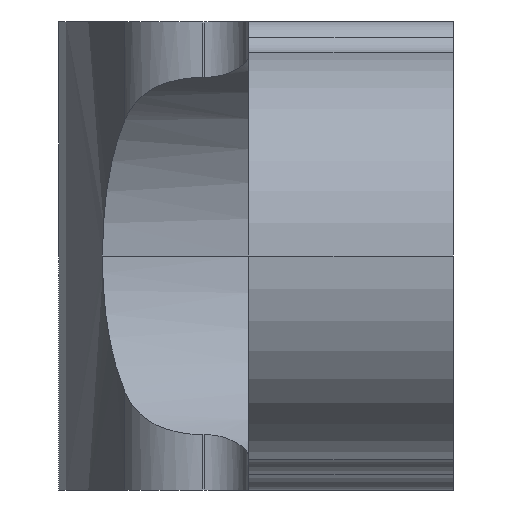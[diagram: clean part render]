
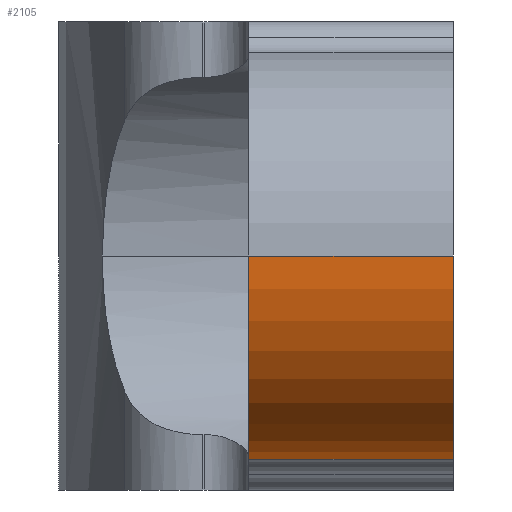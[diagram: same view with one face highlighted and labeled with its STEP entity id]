
A CAD part, left-side view. The second image highlights one B-rep face of the part: STEP entity #2105.
In plain terms, the highlighted cylindrical face has radius 1.778 mm (diameter 3.556 mm), a partial arc.
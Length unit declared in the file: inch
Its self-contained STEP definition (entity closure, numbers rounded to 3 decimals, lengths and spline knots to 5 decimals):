
#89 = FACE_OUTER_BOUND ( 'NONE', #377, .T. ) ;
#189 = DIRECTION ( 'NONE',  ( 0., -1., 0. ) ) ;
#292 = CIRCLE ( 'NONE', #2046, 0.07 ) ;
#357 = CARTESIAN_POINT ( 'NONE',  ( -0.37, -0.07, -0.08 ) ) ;
#377 = EDGE_LOOP ( 'NONE', ( #1481, #2301, #2750, #2599 ) ) ;
#393 = CARTESIAN_POINT ( 'NONE',  ( -0.30875, -0.07, -0.14945 ) ) ;
#855 = LINE ( 'NONE', #357, #2587 ) ;
#1011 = DIRECTION ( 'NONE',  ( 0., 1., 0. ) ) ;
#1049 = CARTESIAN_POINT ( 'NONE',  ( -0.3, 0., -0.08 ) ) ;
#1265 = CARTESIAN_POINT ( 'NONE',  ( -0.37, 0., -0.08 ) ) ;
#1320 = VERTEX_POINT ( 'NONE', #2596 ) ;
#1357 = CARTESIAN_POINT ( 'NONE',  ( -0.3, -0.07, -0.08 ) ) ;
#1359 = AXIS2_PLACEMENT_3D ( 'NONE', #1049, #2191, #2414 ) ;
#1399 = VERTEX_POINT ( 'NONE', #2672 ) ;
#1481 = ORIENTED_EDGE ( 'NONE', *, *, #1657, .T. ) ;
#1508 = CYLINDRICAL_SURFACE ( 'NONE', #1856, 0.07 ) ;
#1571 = EDGE_CURVE ( 'NONE', #2927, #2111, #855, .T. ) ;
#1604 = VECTOR ( 'NONE', #189, 39.37008 ) ;
#1657 = EDGE_CURVE ( 'NONE', #1399, #2927, #292, .T. ) ;
#1837 = DIRECTION ( 'NONE',  ( 0., 1., 0. ) ) ;
#1856 = AXIS2_PLACEMENT_3D ( 'NONE', #2157, #1011, #1955 ) ;
#1955 = DIRECTION ( 'NONE',  ( -1., 0., 0. ) ) ;
#2046 = AXIS2_PLACEMENT_3D ( 'NONE', #1357, #1837, #2822 ) ;
#2105 = ADVANCED_FACE ( 'NONE', ( #89 ), #1508, .T. ) ;
#2111 = VERTEX_POINT ( 'NONE', #1265 ) ;
#2157 = CARTESIAN_POINT ( 'NONE',  ( -0.3, -0.07, -0.08 ) ) ;
#2191 = DIRECTION ( 'NONE',  ( 0., 1., 0. ) ) ;
#2301 = ORIENTED_EDGE ( 'NONE', *, *, #1571, .T. ) ;
#2414 = DIRECTION ( 'NONE',  ( -1., 0., 0. ) ) ;
#2466 = EDGE_CURVE ( 'NONE', #1320, #2111, #2692, .T. ) ;
#2487 = LINE ( 'NONE', #393, #1604 ) ;
#2587 = VECTOR ( 'NONE', #2723, 39.37008 ) ;
#2596 = CARTESIAN_POINT ( 'NONE',  ( -0.30875, 0., -0.14945 ) ) ;
#2599 = ORIENTED_EDGE ( 'NONE', *, *, #2622, .T. ) ;
#2622 = EDGE_CURVE ( 'NONE', #1320, #1399, #2487, .T. ) ;
#2672 = CARTESIAN_POINT ( 'NONE',  ( -0.30875, -0.07, -0.14945 ) ) ;
#2692 = CIRCLE ( 'NONE', #1359, 0.07 ) ;
#2723 = DIRECTION ( 'NONE',  ( 0., 1., 0. ) ) ;
#2744 = CARTESIAN_POINT ( 'NONE',  ( -0.37, -0.07, -0.08 ) ) ;
#2750 = ORIENTED_EDGE ( 'NONE', *, *, #2466, .F. ) ;
#2822 = DIRECTION ( 'NONE',  ( -1., 0., 0. ) ) ;
#2927 = VERTEX_POINT ( 'NONE', #2744 ) ;
